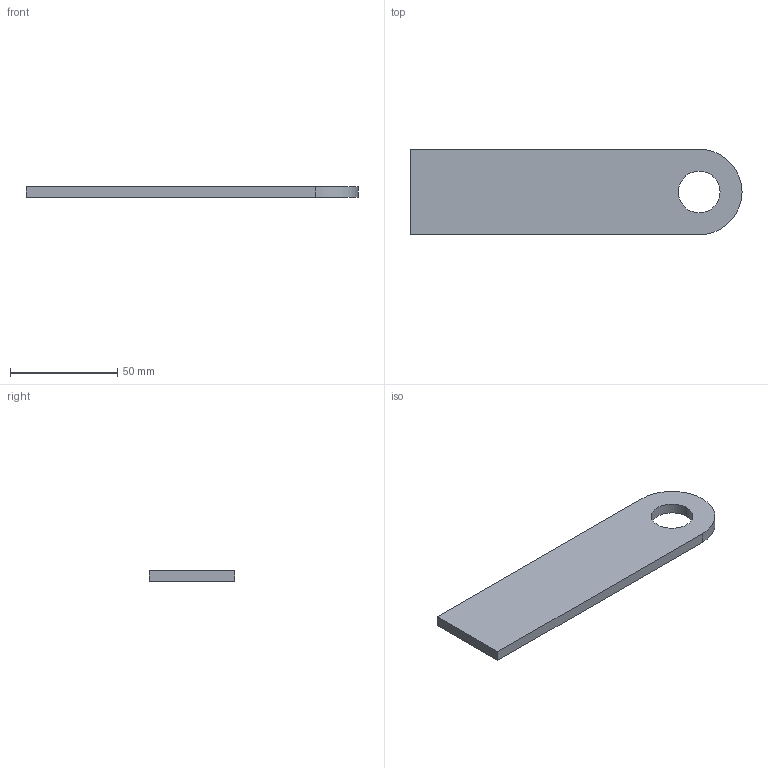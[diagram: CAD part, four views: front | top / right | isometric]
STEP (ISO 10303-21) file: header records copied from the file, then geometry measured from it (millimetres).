
FILE_DESCRIPTION (( 'STEP AP203' ), '1' );
FILE_NAME ('PIASTRA_155X40X5.STEP', '2019-02-20T19:04:07', ( '' ), ( '' ), 'SwSTEP 2.0', 'SolidWorks 2019', '' );
FILE_SCHEMA (( 'CONFIG_CONTROL_DESIGN' ));
Length unit declared in the file: millimetre
Products named in the file (1): PIASTRA_155X40X5
Bounding box: 155 x 40 x 5 mm (x, y, z)
Volume: 28648.4 mm3; surface area: 13629.8 mm2
Topology: 1 solids, 1 shells, 9 faces, 21 edges, 14 vertices
Faces by surface type: plane 5, cylinder 4
Entity records: 344 total; most frequent: DIRECTION 49, CARTESIAN_POINT 45, ORIENTED_EDGE 42, EDGE_CURVE 21, AXIS2_PLACEMENT_3D 18, VERTEX_POINT 14, LINE 13, VECTOR 13
